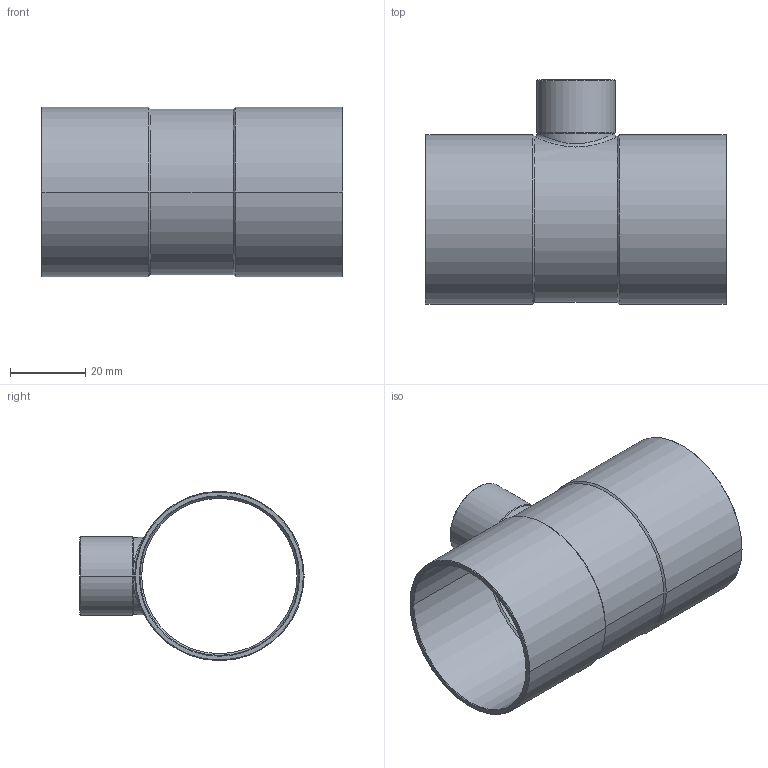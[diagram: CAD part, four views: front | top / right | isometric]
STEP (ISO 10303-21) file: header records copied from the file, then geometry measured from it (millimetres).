
FILE_DESCRIPTION((''),'2;1');
FILE_NAME('G:\Technics\CAD\Bauteile\15130\15130421842.stp','2005-11-03T13:43:02',('boden'),(''),'Autodesk Inventor 8','Autodesk Inventor 8','');
FILE_SCHEMA(('AUTOMOTIVE_DESIGN { 1 0 10303 214 1 1 1 1 }'));
Length unit declared in the file: millimetre
Products named in the file (1): 15130421842
Bounding box: 80 x 59.48 x 44.95 mm (x, y, z)
Volume: 16285.3 mm3; surface area: 23660.4 mm2
Topology: 1 solids, 1 shells, 49 faces, 114 edges, 66 vertices
Faces by surface type: cone 24, cylinder 20, plane 3, bspline 2
Entity records: 1820 total; most frequent: CARTESIAN_POINT 692, DIRECTION 236, ORIENTED_EDGE 228, EDGE_CURVE 114, AXIS2_PLACEMENT_3D 98, VERTEX_POINT 66, EDGE_LOOP 52, CIRCLE 50
